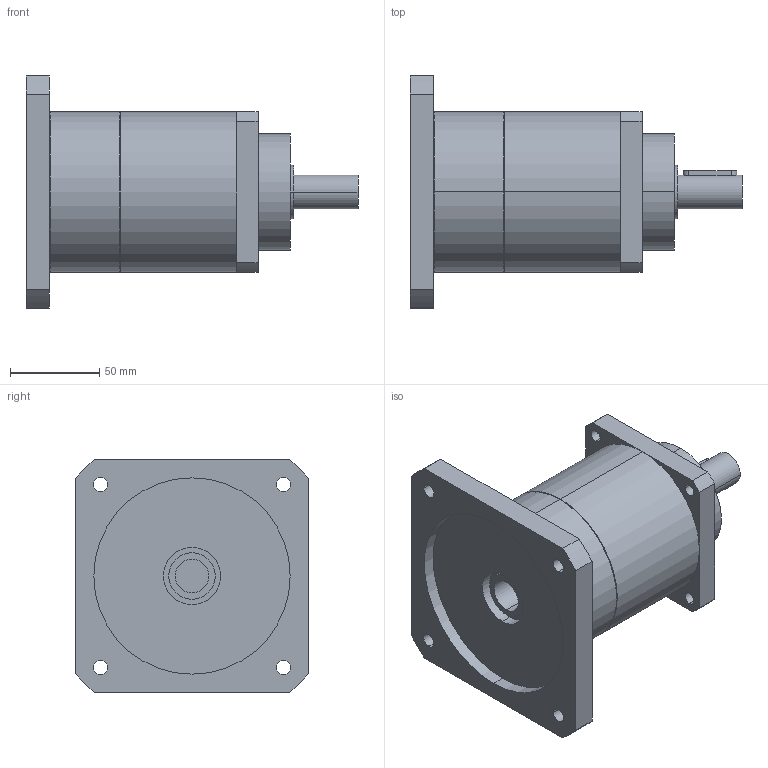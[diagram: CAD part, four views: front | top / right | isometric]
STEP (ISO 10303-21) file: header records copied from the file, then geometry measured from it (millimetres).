
FILE_DESCRIPTION(('CoCreate Modeling STEP Export'),'2;1');
FILE_NAME('GPT90_ig-9-12-16-20-25-28-35-40-50-70-100_19_B5T_19_P33.stp','2015-02-04T11:33:19',(''),(''),'CoCreate Modeling STEP processor for AP214 (Solid Model)','CoCreate Modeling 16.00C 25-Feb-2009 (C) Parametric Technology GmbH','');
FILE_SCHEMA(('AUTOMOTIVE_DESIGN { 1 0 10303 214 1 1 1 1 }'));
Length unit declared in the file: millimetre
Products named in the file (2): GPT90_ig-9-12-16-20-25-28-35-40-50-70-100_19_B5T_19_P33
Assembly tree (1 placements, depth 2):
  GPT90_ig-9-12-16-20-25-28-35-40-50-70-100_19_B5T_19_P33
    GPT90_ig-9-12-16-20-25-28-35-40-50-70-100_19_B5T_19_P33
Bounding box: 186 x 130 x 130 mm (x, y, z)
Volume: 968810.7 mm3; surface area: 90993.6 mm2
Topology: 1 solids, 1 shells, 77 faces, 206 edges, 141 vertices
Faces by surface type: cylinder 46, plane 27, cone 4
Entity records: 2596 total; most frequent: CARTESIAN_POINT 742, ORIENTED_EDGE 412, DIRECTION 324, EDGE_CURVE 206, VERTEX_POINT 141, AXIS2_PLACEMENT_3D 120, EDGE_LOOP 103, VECTOR 84
